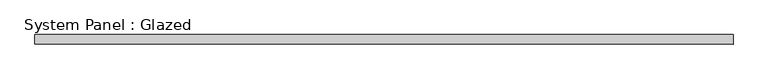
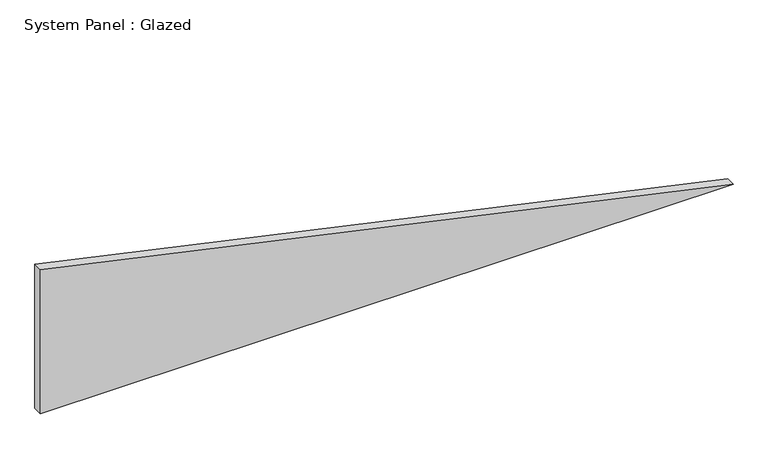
"""IFC4 building model written with IfcOpenShell, lengths in millimetres: plate geometry, System Panel : Glazed."""

from ifc_helpers import new_model, si_unit, frame, origin, place, context, project, spatial, polyline, outline, extrude, source, transform, mapped, element, save


def system_panel_glazed_5c022f44(model_context):
    return source(origin(), model_context, "Body", "SweptSolid", [
        extrude(outline(polyline([(0.0, -925.5927439), (0.0, 925.5927439), (407.0223842, -925.5927439), (0.0, -925.5927439)])), frame((0.0, -12.7, 0.0), z_axis=(0.0, 1.0, 0.0), x_axis=(0.0, 0.0, 1.0)), (0.0, 0.0, 1.0), 25.4),
    ])


if __name__ == "__main__":
    model = new_model("IFC4")
    model_context = context("Model", 3, world=origin())
    ifc_project = project(units=[si_unit("LENGTHUNIT", "METRE", prefix="MILLI")], contexts=[model_context])
    site = spatial("IfcSite", under=ifc_project)
    building = spatial("IfcBuilding", under=site)
    placement = place(None, origin())
    system_panel_glazed_shape = system_panel_glazed_5c022f44(model_context)
    element("IfcPlate", 1, ObjectType="System Panel : Glazed", at=placement, inside=building, context=model_context, shape_type="MappedRepresentation", body=[
        mapped(system_panel_glazed_shape, transform((0.0, 0.0, 0.0), x_axis=(1.0, 0.0, 0.0), y_axis=(0.0, 1.0, 0.0), z_axis=(0.0, 0.0, 1.0))),
    ])
    save(model, "model.ifc")
